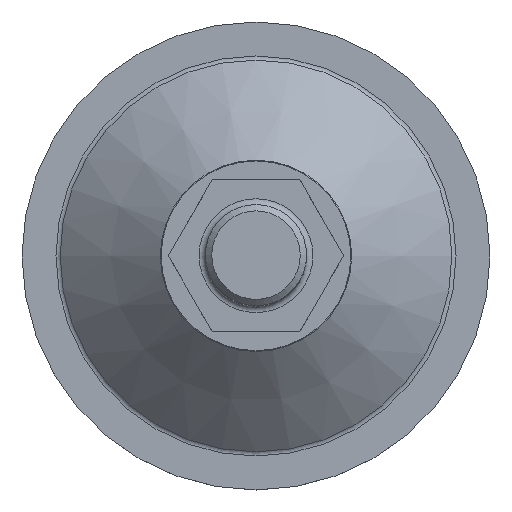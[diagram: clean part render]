
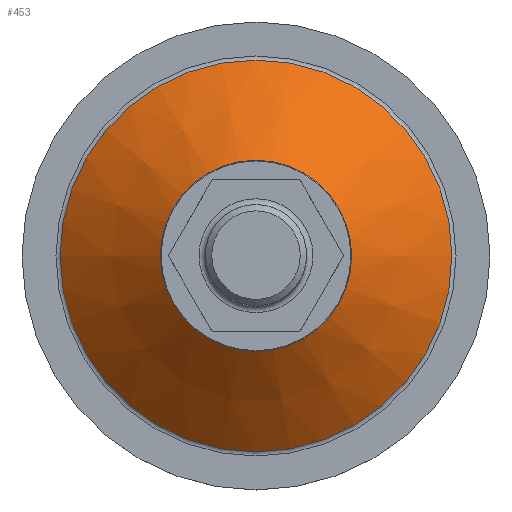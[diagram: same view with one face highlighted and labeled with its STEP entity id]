
A CAD part, top view. The second image highlights one B-rep face of the part: STEP entity #453.
In plain terms, the highlighted conical face has half-angle 49.002 degrees and reference radius 23.047 mm.
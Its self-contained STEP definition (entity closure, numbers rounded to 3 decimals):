
#52=CONICAL_SURFACE('',#521,23.047,49.002);
#101=FACE_BOUND('',#197,.T.);
#138=FACE_OUTER_BOUND('',#196,.T.);
#196=EDGE_LOOP('',(#402));
#197=EDGE_LOOP('',(#403));
#225=CIRCLE('',#507,15.124);
#233=CIRCLE('',#520,30.97);
#265=VERTEX_POINT('',#776);
#273=VERTEX_POINT('',#797);
#311=EDGE_CURVE('',#265,#265,#225,.T.);
#319=EDGE_CURVE('',#273,#273,#233,.T.);
#402=ORIENTED_EDGE('',*,*,#311,.T.);
#403=ORIENTED_EDGE('',*,*,#319,.F.);
#453=ADVANCED_FACE('',(#138,#101),#52,.T.);
#507=AXIS2_PLACEMENT_3D('',#777,#629,#630);
#520=AXIS2_PLACEMENT_3D('',#798,#655,#656);
#521=AXIS2_PLACEMENT_3D('',#799,#657,#658);
#629=DIRECTION('center_axis',(0.,0.,-1.));
#630=DIRECTION('ref_axis',(1.,0.,0.));
#655=DIRECTION('center_axis',(0.,0.,-1.));
#656=DIRECTION('ref_axis',(1.,0.,0.));
#657=DIRECTION('center_axis',(0.,0.,-1.));
#658=DIRECTION('ref_axis',(1.,0.,0.));
#776=CARTESIAN_POINT('',(-15.125,-0.001,-48.507));
#777=CARTESIAN_POINT('Origin',(-0.001,-0.001,
-48.507));
#797=CARTESIAN_POINT('',(-30.971,-0.001,-62.281));
#798=CARTESIAN_POINT('Origin',(-0.001,-0.001,
-62.281));
#799=CARTESIAN_POINT('Origin',(-0.001,-0.001,
-55.394));
